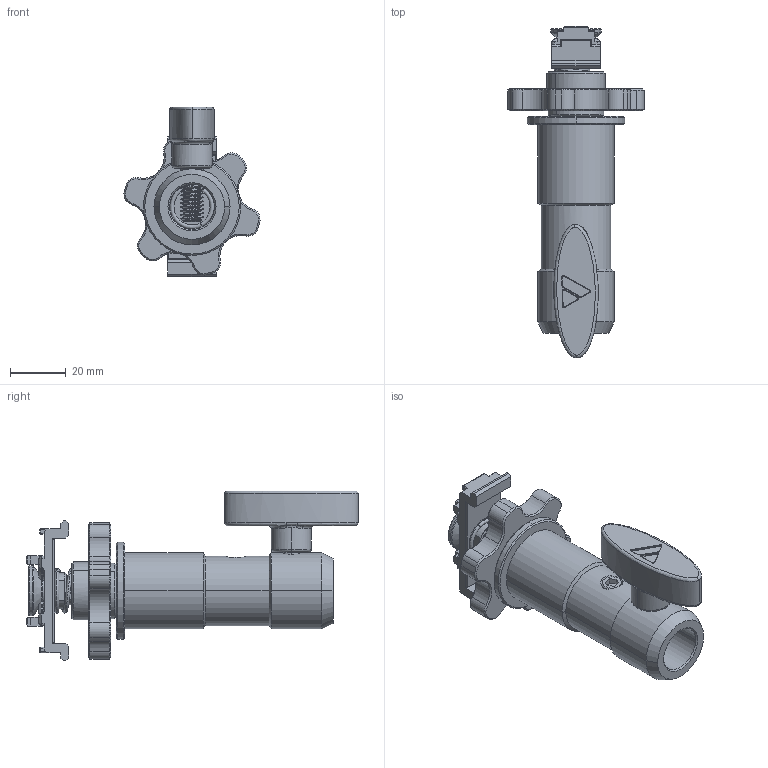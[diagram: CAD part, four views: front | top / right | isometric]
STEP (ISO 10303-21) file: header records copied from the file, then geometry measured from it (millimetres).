
FILE_DESCRIPTION (( 'STEP AP214' ), '1' );
FILE_NAME ('AST-TSP.STEP', '2025-09-25T06:35:53', ( '' ), ( '' ), 'SwSTEP 2.0', 'SolidWorks 2016', '' );
FILE_SCHEMA (( 'AUTOMOTIVE_DESIGN' ));
Length unit declared in the file: millimetre
Products named in the file (9): 19005-PEVA rubber anti-slip tape; 17444-Spring; 37365-T-knob; 37444-Knurl nut; 37366-Machine screw 5-16-18-1-4UNC; AST-TSP; 17002-Babypin disc; 37445-Bracket-locker; 37364-Fixed screw rod
Assembly tree (8 placements, depth 2):
  AST-TSP
    37364-Fixed screw rod
    37444-Knurl nut
    17002-Babypin disc
    17444-Spring
    19005-PEVA rubber anti-slip tape
    37445-Bracket-locker
    37365-T-knob
    37366-Machine screw 5-16-18-1-4UNC
Bounding box: 48.97 x 119.51 x 61.18 mm (x, y, z)
Volume: 53667 mm3; surface area: 31380 mm2
Topology: 8 solids, 8 shells, 620 faces, 1556 edges, 949 vertices
Faces by surface type: cylinder 234, plane 151, cone 118, bspline 74, torus 35, sphere 8
Entity records: 35962 total; most frequent: CARTESIAN_POINT 21586, ORIENTED_EDGE 3084, DIRECTION 2812, EDGE_CURVE 1542, AXIS2_PLACEMENT_3D 1068, VERTEX_POINT 949, VECTOR 676, LINE 676
